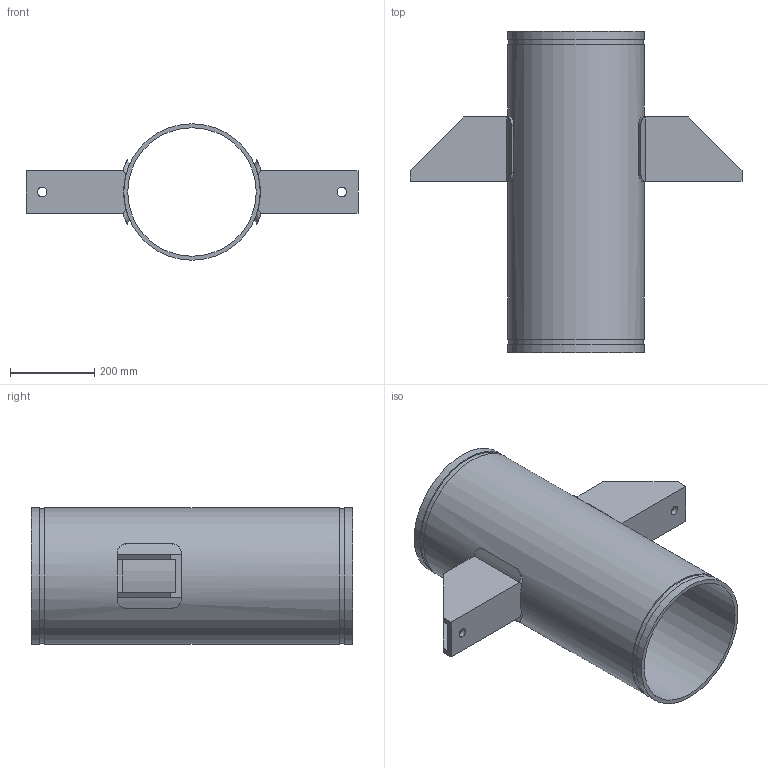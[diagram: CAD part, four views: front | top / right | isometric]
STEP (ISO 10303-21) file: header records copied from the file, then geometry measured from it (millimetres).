
FILE_DESCRIPTION(/* description */ ('VIC Floor-Mounted Carbon Steel Riser Anchor No A10','CAx-IF Rec.Pracs.---Representation and Presentation of Product Manufacturing Information (PMI)---4.0---2014-10-13'),/* implementation_level */ '2;1');
FILE_NAME(/* name */ 'C:\Users\kkamble\AppData\Roaming\Autodesk\ApplicationPlugins\Back Up\Victaulic_SS-OGS_Riser Anchor_No A10 (OGS)\Victaulic_SS-OGS_Riser Anchor_No A10 (OGS)_12 (300).stp',/* time_stamp */ '2020-08-25T18:07:03+06:00',/* author */ ('kkamble'),/* organization */ ('Victaulic'),/* preprocessor_version */ 'ST-DEVELOPER v17.2',/* originating_system */ 'Autodesk Inventor 2019',/* authorisation */ '');
FILE_SCHEMA (('AP242_MANAGED_MODEL_BASED_3D_ENGINEERING_MIM_LF { 1 0 10303 442 1 1 4 }'));
Length unit declared in the file: inch
Products named in the file (1): A10S-12.0
Bounding box: 787.4 x 762 x 323.85 mm (x, y, z)
Volume: 9485173.1 mm3; surface area: 1867158.2 mm2
Topology: 1 solids, 1 shells, 56 faces, 155 edges, 106 vertices
Faces by surface type: plane 34, cylinder 22
Full cylindrical faces by diameter (mm): 22.225 x2, 304.8 x1, 318.287 x2, 323.85 x3
Entity records: 2233 total; most frequent: CARTESIAN_POINT 591, DIRECTION 325, ORIENTED_EDGE 310, EDGE_CURVE 155, AXIS2_PLACEMENT_3D 116, VERTEX_POINT 106, LINE 93, VECTOR 93
